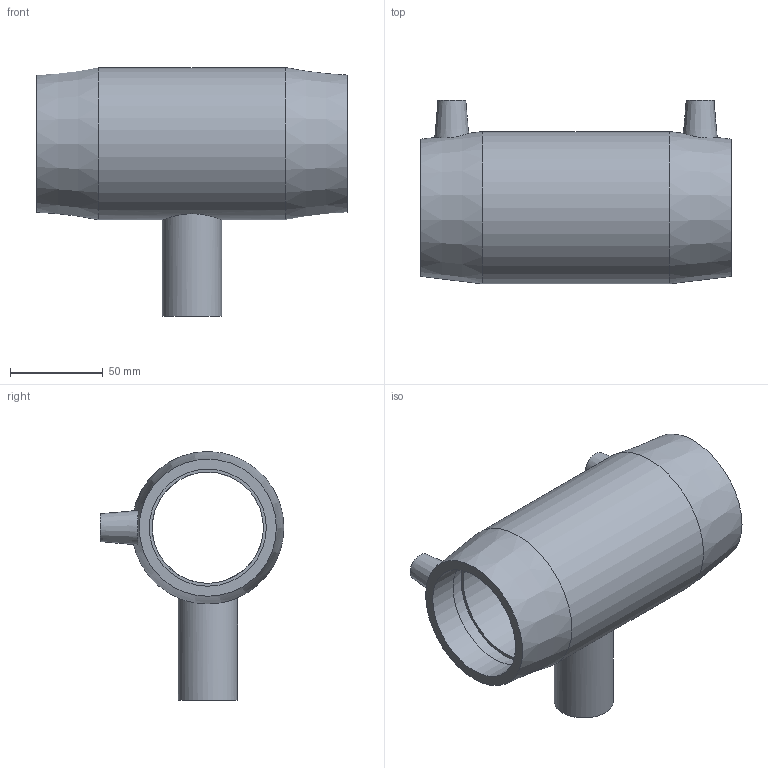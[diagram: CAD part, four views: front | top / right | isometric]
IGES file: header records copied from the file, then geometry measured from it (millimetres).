
Global section: file name: 491404063032.ipt; native system: Autodesk Inventor 2015; preprocessor: unknown; author: KIM; date: 20190909.112828; units: millimetre
Bounding box: 167 x 99 x 134 mm (x, y, z)
Volume: 356510.6 mm3; surface area: 91139.9 mm2
Topology: 1 solids, 1 shells, 31 faces, 72 edges, 52 vertices
Faces by surface type: plane 13, revolution 10, cylinder 4, cone 4
Full cylindrical faces by diameter (mm): 4 x2, 32 x1, 82 x1
